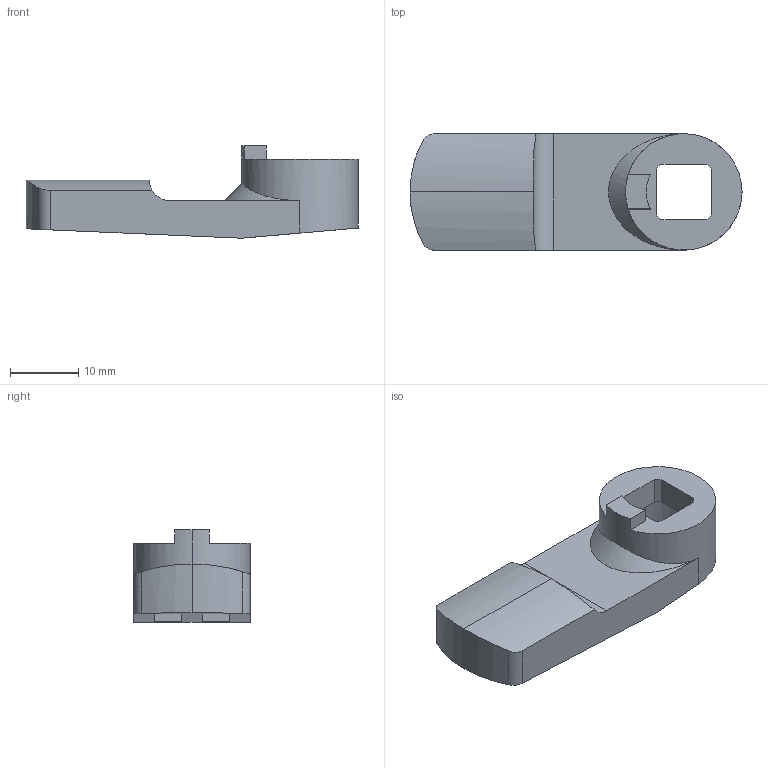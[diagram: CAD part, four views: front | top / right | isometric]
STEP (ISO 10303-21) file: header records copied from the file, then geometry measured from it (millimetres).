
FILE_DESCRIPTION (( 'STEP AP214' ), '1' );
FILE_NAME ('JP2-10021.STEP', '2016-08-17T09:59:56', ( 'RST-Dolba' ), ( '' ), 'SwSTEP 2.0', 'SolidWorks 2015', '' );
FILE_SCHEMA (( 'AUTOMOTIVE_DESIGN' ));
Length unit declared in the file: millimetre
Products named in the file (1): JP2-10021
Bounding box: 48.5 x 17 x 13.5 mm (x, y, z)
Volume: 4058.8 mm3; surface area: 3224.2 mm2
Topology: 1 solids, 1 shells, 54 faces, 144 edges, 95 vertices
Faces by surface type: plane 28, cylinder 25, bspline 1
Entity records: 1893 total; most frequent: CARTESIAN_POINT 514, ORIENTED_EDGE 288, DIRECTION 271, EDGE_CURVE 144, VERTEX_POINT 95, VECTOR 91, LINE 91, AXIS2_PLACEMENT_3D 90
